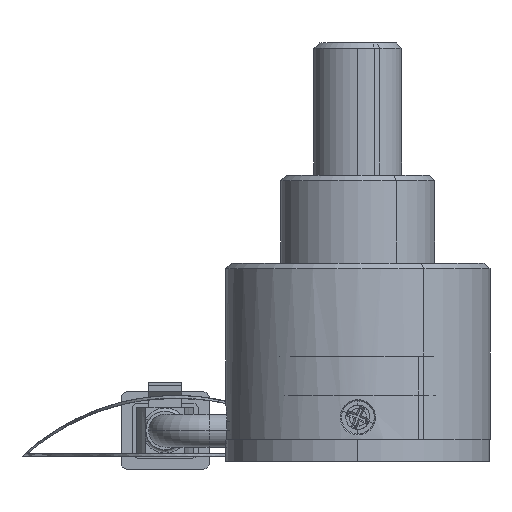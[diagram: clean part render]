
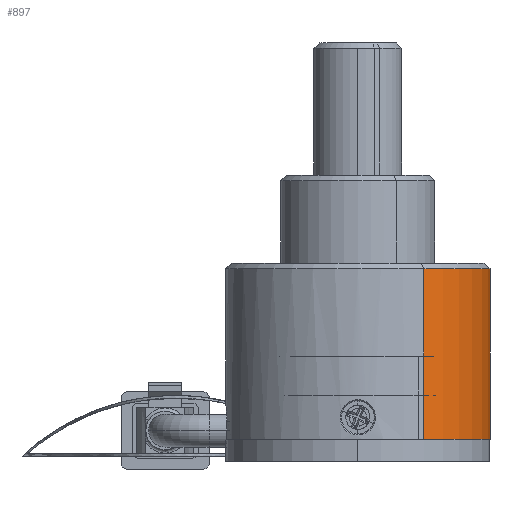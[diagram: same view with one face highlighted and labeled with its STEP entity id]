
A CAD part, left-side view. The second image highlights one B-rep face of the part: STEP entity #897.
In plain terms, the highlighted cylindrical face has radius 12 mm (diameter 24 mm), a partial arc.
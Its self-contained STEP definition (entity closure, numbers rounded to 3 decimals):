
#897=ADVANCED_FACE('',(#1964,#1965),#1966,.T.);
#1964=FACE_OUTER_BOUND('',#3416,.T.);
#1965=FACE_BOUND('',#3417,.T.);
#1966=CYLINDRICAL_SURFACE('',#3418,12.0);
#3416=EDGE_LOOP('',(#7474,#7475,#7476,#7477));
#3417=EDGE_LOOP('',(#7478,#7479));
#3418=AXIS2_PLACEMENT_3D('',#7480,#7481,#7482);
#7474=ORIENTED_EDGE('',*,*,#11711,.F.);
#7475=ORIENTED_EDGE('',*,*,#11729,.F.);
#7476=ORIENTED_EDGE('',*,*,#11709,.F.);
#7477=ORIENTED_EDGE('',*,*,#11726,.T.);
#7478=ORIENTED_EDGE('',*,*,#11730,.F.);
#7479=ORIENTED_EDGE('',*,*,#11731,.F.);
#7480=CARTESIAN_POINT('',(0.,0.,15.5));
#7481=DIRECTION('',(0.,0.,1.0));
#7482=DIRECTION('',(-0.866,-0.5,0.));
#11709=EDGE_CURVE('',#13672,#13674,#13675,.T.);
#11711=EDGE_CURVE('',#13676,#13678,#13679,.T.);
#11726=EDGE_CURVE('',#13672,#13678,#13702,.T.);
#11729=EDGE_CURVE('',#13674,#13676,#13705,.T.);
#11730=EDGE_CURVE('',#13706,#13707,#13708,.T.);
#11731=EDGE_CURVE('',#13707,#13706,#13709,.T.);
#13672=VERTEX_POINT('',#16905);
#13674=VERTEX_POINT('',#16907);
#13675=LINE('',#16908,#16909);
#13676=VERTEX_POINT('',#16910);
#13678=VERTEX_POINT('',#16912);
#13679=LINE('',#16913,#16914);
#13702=CIRCLE('',#17154,12.);
#13705=CIRCLE('',#17157,12.);
#13706=VERTEX_POINT('',#17158);
#13707=VERTEX_POINT('',#17159);
#13708=B_SPLINE_CURVE_WITH_KNOTS('',3,(#17160,#17161,#17162,#17163,#17164,#17165,#17166,#17167,#17168,#17169,#17170,#17171,#17172,#17173,#17174,#17175,#17176,#17177,#17178,#17179,#17180,#17181,#17182,#17183,#17184,#17185,#17186,#17187,#17188,#17189,#17190,#17191,#17192,#17193,#17194,#17195,#17196,#17197,#17198,#17199,#17200,#17201,#17202,#17203,#17204,#17205),.UNSPECIFIED.,.F.,.F.,(4,2,2,2,2,2,2,2,2,2,2,2,2,2,2,2,2,2,2,2,2,2,4),(-4.788,-4.697,-4.552,-4.408,-4.132,-3.993,-3.729,-3.458,-3.323,-3.059,-2.927,-2.678,-2.423,-2.297,-2.046,-1.796,-1.551,-1.432,-1.313,-1.197,-0.966,-0.855,-0.647),.UNSPECIFIED.);
#13709=B_SPLINE_CURVE_WITH_KNOTS('',3,(#17206,#17207,#17208,#17209,#17210,#17211,#17212,#17213,#17214,#17215,#17216,#17217,#17218,#17219,#17220,#17221,#17222,#17223,#17224,#17225,#17226,#17227,#17228,#17229,#17230,#17231,#17232,#17233,#17234,#17235,#17236,#17237,#17238,#17239,#17240,#17241,#17242,#17243,#17244,#17245,#17246,#17247,#17248,#17249,#17250,#17251,#17252,#17253,#17254,#17255,#17256),.UNSPECIFIED.,.F.,.F.,(4,2,2,2,2,2,2,2,2,2,2,2,2,2,2,2,2,2,2,2,2,3,2,2,4),(-8.347,-8.337,-8.229,-8.121,-7.909,-7.804,-7.703,-7.502,-7.3,-7.1,-7.001,-6.906,-6.81,-6.629,-6.537,-6.447,-6.357,-6.182,-6.048,-5.798,-5.617,-5.435,-5.281,-4.99,-4.788),.UNSPECIFIED.);
#16905=CARTESIAN_POINT('',(-10.392,-6.0,0.));
#16907=CARTESIAN_POINT('',(-10.392,-6.0,15.5));
#16908=CARTESIAN_POINT('',(-10.392,-6.0,0.));
#16909=VECTOR('',#23206,15.5);
#16910=CARTESIAN_POINT('',(10.392,6.0,15.5));
#16912=CARTESIAN_POINT('',(10.392,6.0,0.));
#16913=CARTESIAN_POINT('',(10.392,6.0,15.5));
#16914=VECTOR('',#23210,15.5);
#17154=AXIS2_PLACEMENT_3D('',#23218,#23219,#23220);
#17157=AXIS2_PLACEMENT_3D('',#23224,#23225,#23226);
#17158=CARTESIAN_POINT('',(6.,-10.392,0.4));
#17159=CARTESIAN_POINT('',(6.,-10.392,3.6));
#17160=CARTESIAN_POINT('',(6.,-10.392,0.4));
#17161=CARTESIAN_POINT('',(6.028,-10.376,0.4));
#17162=CARTESIAN_POINT('',(6.055,-10.36,0.401));
#17163=CARTESIAN_POINT('',(6.127,-10.318,0.406));
#17164=CARTESIAN_POINT('',(6.172,-10.291,0.412));
#17165=CARTESIAN_POINT('',(6.26,-10.238,0.428));
#17166=CARTESIAN_POINT('',(6.304,-10.211,0.439));
#17167=CARTESIAN_POINT('',(6.431,-10.132,0.478));
#17168=CARTESIAN_POINT('',(6.512,-10.08,0.513));
#17169=CARTESIAN_POINT('',(6.628,-10.004,0.58));
#17170=CARTESIAN_POINT('',(6.666,-9.979,0.604));
#17171=CARTESIAN_POINT('',(6.773,-9.906,0.683));
#17172=CARTESIAN_POINT('',(6.84,-9.86,0.743));
#17173=CARTESIAN_POINT('',(6.965,-9.772,0.88));
#17174=CARTESIAN_POINT('',(7.022,-9.731,0.956));
#17175=CARTESIAN_POINT('',(7.098,-9.676,1.081));
#17176=CARTESIAN_POINT('',(7.121,-9.658,1.124));
#17177=CARTESIAN_POINT('',(7.187,-9.61,1.258));
#17178=CARTESIAN_POINT('',(7.223,-9.583,1.351));
#17179=CARTESIAN_POINT('',(7.266,-9.55,1.497));
#17180=CARTESIAN_POINT('',(7.278,-9.541,1.547));
#17181=CARTESIAN_POINT('',(7.308,-9.518,1.694));
#17182=CARTESIAN_POINT('',(7.321,-9.508,1.793));
#17183=CARTESIAN_POINT('',(7.332,-9.499,1.996));
#17184=CARTESIAN_POINT('',(7.33,-9.501,2.099));
#17185=CARTESIAN_POINT('',(7.314,-9.513,2.254));
#17186=CARTESIAN_POINT('',(7.307,-9.519,2.305));
#17187=CARTESIAN_POINT('',(7.279,-9.54,2.457));
#17188=CARTESIAN_POINT('',(7.253,-9.56,2.557));
#17189=CARTESIAN_POINT('',(7.185,-9.611,2.746));
#17190=CARTESIAN_POINT('',(7.144,-9.642,2.836));
#17191=CARTESIAN_POINT('',(7.048,-9.713,3.005));
#17192=CARTESIAN_POINT('',(6.993,-9.752,3.084));
#17193=CARTESIAN_POINT('',(6.902,-9.817,3.191));
#17194=CARTESIAN_POINT('',(6.87,-9.839,3.224));
#17195=CARTESIAN_POINT('',(6.804,-9.885,3.288));
#17196=CARTESIAN_POINT('',(6.769,-9.909,3.318));
#17197=CARTESIAN_POINT('',(6.697,-9.958,3.374));
#17198=CARTESIAN_POINT('',(6.66,-9.983,3.4));
#17199=CARTESIAN_POINT('',(6.545,-10.059,3.471));
#17200=CARTESIAN_POINT('',(6.463,-10.112,3.509));
#17201=CARTESIAN_POINT('',(6.335,-10.192,3.552));
#17202=CARTESIAN_POINT('',(6.292,-10.218,3.564));
#17203=CARTESIAN_POINT('',(6.168,-10.294,3.591));
#17204=CARTESIAN_POINT('',(6.085,-10.343,3.6));
#17205=CARTESIAN_POINT('',(6.,-10.392,3.6));
#17206=CARTESIAN_POINT('',(6.,-10.392,3.6));
#17207=CARTESIAN_POINT('',(5.996,-10.395,3.6));
#17208=CARTESIAN_POINT('',(5.991,-10.397,3.6));
#17209=CARTESIAN_POINT('',(5.943,-10.425,3.599));
#17210=CARTESIAN_POINT('',(5.899,-10.45,3.597));
#17211=CARTESIAN_POINT('',(5.809,-10.5,3.586));
#17212=CARTESIAN_POINT('',(5.764,-10.525,3.578));
#17213=CARTESIAN_POINT('',(5.631,-10.598,3.547));
#17214=CARTESIAN_POINT('',(5.543,-10.644,3.516));
#17215=CARTESIAN_POINT('',(5.415,-10.709,3.456));
#17216=CARTESIAN_POINT('',(5.374,-10.73,3.434));
#17217=CARTESIAN_POINT('',(5.293,-10.77,3.385));
#17218=CARTESIAN_POINT('',(5.253,-10.789,3.359));
#17219=CARTESIAN_POINT('',(5.139,-10.844,3.274));
#17220=CARTESIAN_POINT('',(5.066,-10.878,3.209));
#17221=CARTESIAN_POINT('',(4.933,-10.939,3.064));
#17222=CARTESIAN_POINT('',(4.872,-10.967,2.984));
#17223=CARTESIAN_POINT('',(4.764,-11.014,2.811));
#17224=CARTESIAN_POINT('',(4.718,-11.034,2.719));
#17225=CARTESIAN_POINT('',(4.662,-11.057,2.575));
#17226=CARTESIAN_POINT('',(4.645,-11.064,2.527));
#17227=CARTESIAN_POINT('',(4.617,-11.076,2.428));
#17228=CARTESIAN_POINT('',(4.605,-11.081,2.378));
#17229=CARTESIAN_POINT('',(4.586,-11.089,2.277));
#17230=CARTESIAN_POINT('',(4.578,-11.092,2.226));
#17231=CARTESIAN_POINT('',(4.562,-11.099,2.075));
#17232=CARTESIAN_POINT('',(4.561,-11.099,1.974));
#17233=CARTESIAN_POINT('',(4.572,-11.095,1.821));
#17234=CARTESIAN_POINT('',(4.578,-11.092,1.77));
#17235=CARTESIAN_POINT('',(4.595,-11.085,1.668));
#17236=CARTESIAN_POINT('',(4.606,-11.081,1.618));
#17237=CARTESIAN_POINT('',(4.632,-11.07,1.518));
#17238=CARTESIAN_POINT('',(4.647,-11.064,1.468));
#17239=CARTESIAN_POINT('',(4.7,-11.042,1.323));
#17240=CARTESIAN_POINT('',(4.743,-11.023,1.23));
#17241=CARTESIAN_POINT('',(4.832,-10.984,1.077));
#17242=CARTESIAN_POINT('',(4.875,-10.965,1.014));
#17243=CARTESIAN_POINT('',(5.009,-10.905,0.844));
#17244=CARTESIAN_POINT('',(5.092,-10.866,0.768));
#17245=CARTESIAN_POINT('',(5.194,-10.818,0.684));
#17246=CARTESIAN_POINT('',(5.239,-10.796,0.65));
#17247=CARTESIAN_POINT('',(5.333,-10.75,0.589));
#17248=CARTESIAN_POINT('',(5.381,-10.726,0.562));
#17249=CARTESIAN_POINT('',(5.43,-10.701,0.537));
#17250=CARTESIAN_POINT('',(5.472,-10.68,0.516));
#17251=CARTESIAN_POINT('',(5.515,-10.658,0.498));
#17252=CARTESIAN_POINT('',(5.643,-10.591,0.45));
#17253=CARTESIAN_POINT('',(5.729,-10.544,0.427));
#17254=CARTESIAN_POINT('',(5.877,-10.462,0.405));
#17255=CARTESIAN_POINT('',(5.938,-10.428,0.4));
#17256=CARTESIAN_POINT('',(6.,-10.392,0.4));
#23206=DIRECTION('',(0.0,0.0,1.0));
#23210=DIRECTION('',(0.0,0.0,-1.0));
#23218=CARTESIAN_POINT('',(0.,0.,0.));
#23219=DIRECTION('',(0.,0.,1.0));
#23220=DIRECTION('',(-0.866,-0.5,0.));
#23224=CARTESIAN_POINT('',(0.,0.,15.5));
#23225=DIRECTION('',(0.0,0.0,1.0));
#23226=DIRECTION('',(-0.866,-0.5,0.0));
